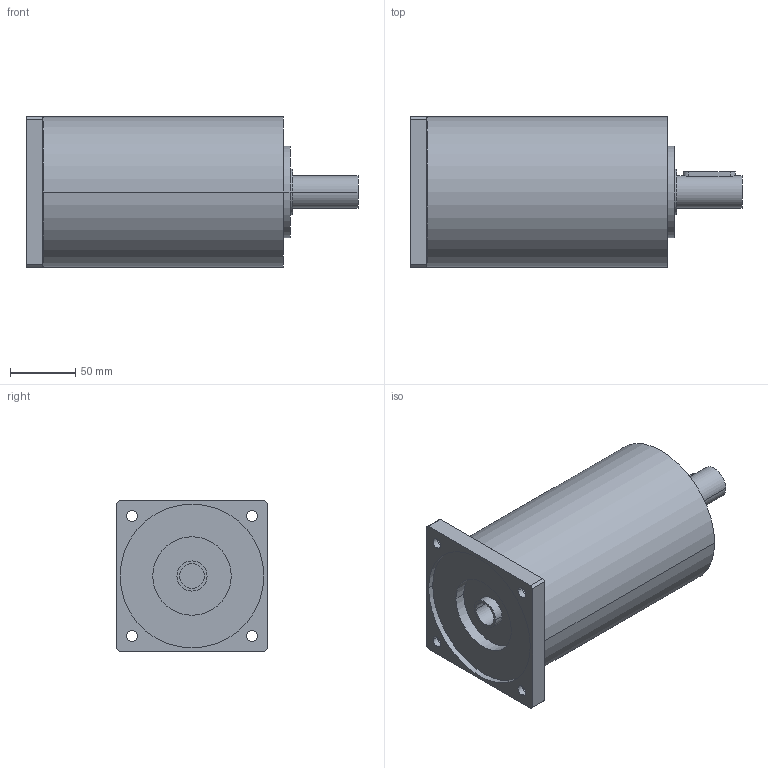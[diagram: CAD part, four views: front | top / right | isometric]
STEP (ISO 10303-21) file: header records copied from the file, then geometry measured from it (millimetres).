
FILE_DESCRIPTION(('CoCreate Modeling STEP Export'),'2;1');
FILE_NAME('GPR125_ig-48-64-80-100-140-196-245-343_25_B14_19_P07.stp','2014-08-26T14:21:47',(''),(''),'CoCreate Modeling STEP processor for AP214 (Solid Model)','CoCreate Modeling 16.00C 25-Feb-2009 (C) Parametric Technology GmbH','');
FILE_SCHEMA(('AUTOMOTIVE_DESIGN { 1 0 10303 214 1 1 1 1 }'));
Length unit declared in the file: millimetre
Products named in the file (2): GPR125_ig-48-64-80-100-140-196-245-343_25_B14_19_P07
Assembly tree (1 placements, depth 2):
  GPR125_ig-48-64-80-100-140-196-245-343_25_B14_19_P07
    GPR125_ig-48-64-80-100-140-196-245-343_25_B14_19_P07
Bounding box: 254 x 115 x 115 mm (x, y, z)
Volume: 2044255.6 mm3; surface area: 114531.7 mm2
Topology: 1 solids, 1 shells, 77 faces, 212 edges, 152 vertices
Faces by surface type: cylinder 48, plane 25, cone 4
Entity records: 2153 total; most frequent: ORIENTED_EDGE 420, CARTESIAN_POINT 399, DIRECTION 288, EDGE_CURVE 210, VERTEX_POINT 152, AXIS2_PLACEMENT_3D 109, EDGE_LOOP 102, FACE_OUTER_BOUND 77
